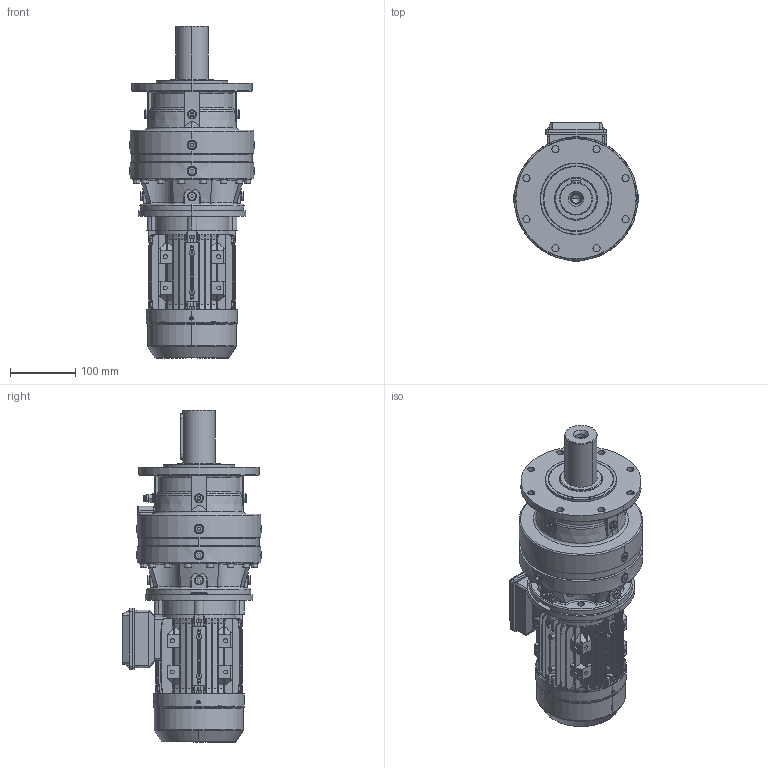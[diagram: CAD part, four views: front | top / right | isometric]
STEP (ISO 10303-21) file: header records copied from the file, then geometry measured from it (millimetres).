
FILE_DESCRIPTION (( 'STEP AP203' ), '1' );
FILE_NAME ('PVL-1101L-MX71-4.STEP', '2019-05-17T08:28:49', ( '' ), ( '' ), 'SwSTEP 2.0', 'SolidWorks 2012', '' );
FILE_SCHEMA (( 'CONFIG_CONTROL_DESIGN' ));
Length unit declared in the file: millimetre
Products named in the file (14): PVL-1101L-MX71-4; MX71_B5; Lüfterhaube_MS71; Klemmenkastenunterteil_MS71; L黤terfl黦el_MS71; Klemmkastenoberteil_MS71; PNL_1101L_0_0_A07_B5_ML7A_FL1A_0_0_0_0_0_0_0_0_0_0_0_M1; Gehäuse_MS71L; B5-Flansch_MS71; B-Lagerschild_MS71; 1171B5; ML7A; FL1A; P11
Assembly tree (13 placements, depth 3):
  PVL-1101L-MX71-4
    PNL_1101L_0_0_A07_B5_ML7A_FL1A_0_0_0_0_0_0_0_0_0_0_0_M1
      P11
      1171B5
      ML7A
      FL1A
    MX71_B5
      Gehäuse_MS71L
      B-Lagerschild_MS71
      B5-Flansch_MS71
      Klemmenkastenunterteil_MS71
      Klemmkastenoberteil_MS71
      L黤terfl黦el_MS71
      Lüfterhaube_MS71
Bounding box: 191 x 212.5 x 510.71 mm (x, y, z)
Volume: 4884735.7 mm3; surface area: 850052.1 mm2
Topology: 15 solids, 15 shells, 3014 faces, 7909 edges, 5031 vertices
Faces by surface type: plane 1496, cylinder 916, cone 307, bspline 188, torus 103, sphere 4
Entity records: 108100 total; most frequent: CARTESIAN_POINT 33812, ORIENTED_EDGE 15734, DIRECTION 14560, EDGE_CURVE 7867, AXIS2_PLACEMENT_3D 5252, VERTEX_POINT 5031, LINE 4056, VECTOR 4056
